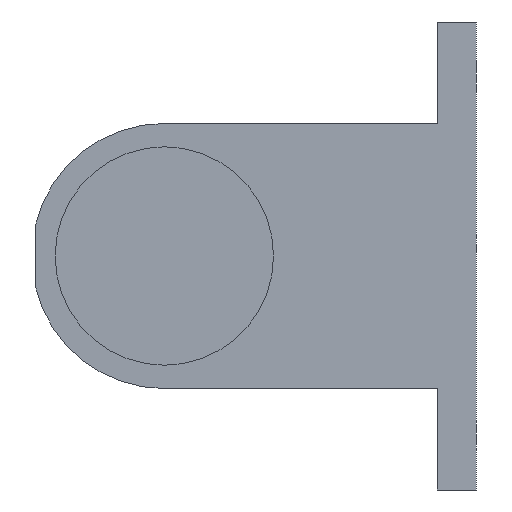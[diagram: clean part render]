
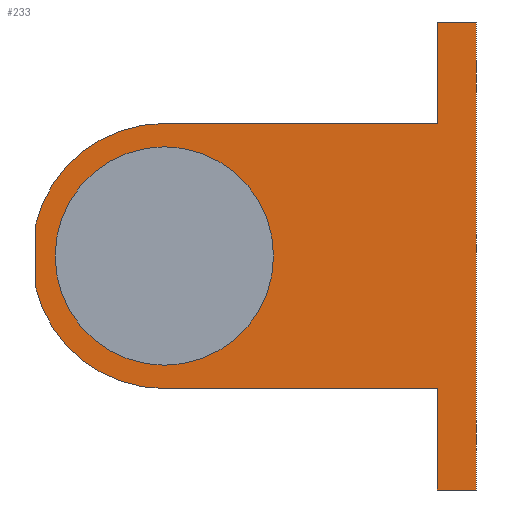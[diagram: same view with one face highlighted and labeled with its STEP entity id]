
A CAD part, left-side view. The second image highlights one B-rep face of the part: STEP entity #233.
In plain terms, the highlighted planar face has unit normal (-1, 0, 0).
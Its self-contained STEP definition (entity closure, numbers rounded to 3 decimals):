
#3 = ORIENTED_EDGE ( 'NONE', *, *, #329, .T. ) ;
#5 = VERTEX_POINT ( 'NONE', #111 ) ;
#10 = AXIS2_PLACEMENT_3D ( 'NONE', #409, #82, #371 ) ;
#13 = EDGE_CURVE ( 'NONE', #440, #56, #101, .T. ) ;
#15 = CARTESIAN_POINT ( 'NONE',  ( -10., -35., 30. ) ) ;
#17 = CARTESIAN_POINT ( 'NONE',  ( -10., -40., 30. ) ) ;
#28 = CARTESIAN_POINT ( 'NONE',  ( -10., -35., -17. ) ) ;
#31 = VECTOR ( 'NONE', #454, 1000. ) ;
#34 = CARTESIAN_POINT ( 'NONE',  ( -10., -35., -30. ) ) ;
#35 = CARTESIAN_POINT ( 'NONE',  ( -10., -40., -30. ) ) ;
#43 = ORIENTED_EDGE ( 'NONE', *, *, #163, .T. ) ;
#52 = ORIENTED_EDGE ( 'NONE', *, *, #322, .F. ) ;
#54 = EDGE_CURVE ( 'NONE', #177, #5, #593, .T. ) ;
#56 = VERTEX_POINT ( 'NONE', #397 ) ;
#62 = DIRECTION ( 'NONE',  ( 0., 1., 0. ) ) ;
#77 = VECTOR ( 'NONE', #86, 1000. ) ;
#82 = DIRECTION ( 'NONE',  ( 1., 0., 0. ) ) ;
#84 = CARTESIAN_POINT ( 'NONE',  ( -10., -35., 30. ) ) ;
#86 = DIRECTION ( 'NONE',  ( 0., 0., -1. ) ) ;
#99 = CARTESIAN_POINT ( 'NONE',  ( -10., 0., 17. ) ) ;
#101 = LINE ( 'NONE', #439, #585 ) ;
#111 = CARTESIAN_POINT ( 'NONE',  ( -10., 0., 17. ) ) ;
#116 = DIRECTION ( 'NONE',  ( 0., 0., -1. ) ) ;
#120 = DIRECTION ( 'NONE',  ( 0., -1., 0. ) ) ;
#123 = DIRECTION ( 'NONE',  ( 0., 0., 1. ) ) ;
#126 = VECTOR ( 'NONE', #196, 1000. ) ;
#127 = CARTESIAN_POINT ( 'NONE',  ( -10., 0., 0. ) ) ;
#142 = VERTEX_POINT ( 'NONE', #416 ) ;
#144 = VECTOR ( 'NONE', #629, 1000. ) ;
#163 = EDGE_CURVE ( 'NONE', #483, #281, #358, .T. ) ;
#164 = CARTESIAN_POINT ( 'NONE',  ( -10., 0., -17. ) ) ;
#167 = VECTOR ( 'NONE', #120, 1000. ) ;
#176 = CARTESIAN_POINT ( 'NONE',  ( -10., 0., 0. ) ) ;
#177 = VERTEX_POINT ( 'NONE', #470 ) ;
#183 = AXIS2_PLACEMENT_3D ( 'NONE', #219, #506, #116 ) ;
#186 = EDGE_CURVE ( 'NONE', #541, #607, #609, .T. ) ;
#193 = VECTOR ( 'NONE', #212, 1000. ) ;
#194 = ORIENTED_EDGE ( 'NONE', *, *, #223, .F. ) ;
#195 = ORIENTED_EDGE ( 'NONE', *, *, #580, .F. ) ;
#196 = DIRECTION ( 'NONE',  ( 0., 0., -1. ) ) ;
#201 = EDGE_CURVE ( 'NONE', #541, #56, #576, .T. ) ;
#203 = VERTEX_POINT ( 'NONE', #35 ) ;
#208 = CARTESIAN_POINT ( 'NONE',  ( -10., 16.5, 4.093 ) ) ;
#212 = DIRECTION ( 'NONE',  ( 0., 1., 0. ) ) ;
#219 = CARTESIAN_POINT ( 'NONE',  ( -10., 0., 0. ) ) ;
#220 = PLANE ( 'NONE',  #496 ) ;
#222 = CARTESIAN_POINT ( 'NONE',  ( -10., -35., 30. ) ) ;
#223 = EDGE_CURVE ( 'NONE', #573, #142, #599, .T. ) ;
#225 = CARTESIAN_POINT ( 'NONE',  ( -10., -35., 30. ) ) ;
#228 = EDGE_LOOP ( 'NONE', ( #195, #394, #236, #387, #308, #446, #552, #43, #3, #332 ) ) ;
#231 = CARTESIAN_POINT ( 'NONE',  ( -10., -40., 17. ) ) ;
#233 = ADVANCED_FACE ( 'NONE', ( #562, #317 ), #220, .F. ) ;
#234 = EDGE_LOOP ( 'NONE', ( #52, #194 ) ) ;
#236 = ORIENTED_EDGE ( 'NONE', *, *, #201, .F. ) ;
#270 = DIRECTION ( 'NONE',  ( -1., 0., 0. ) ) ;
#273 = VECTOR ( 'NONE', #62, 1000. ) ;
#281 = VERTEX_POINT ( 'NONE', #84 ) ;
#289 = LINE ( 'NONE', #15, #126 ) ;
#295 = CIRCLE ( 'NONE', #380, 14. ) ;
#308 = ORIENTED_EDGE ( 'NONE', *, *, #466, .T. ) ;
#317 = FACE_OUTER_BOUND ( 'NONE', #228, .T. ) ;
#320 = DIRECTION ( 'NONE',  ( 1., 0., 0. ) ) ;
#322 = EDGE_CURVE ( 'NONE', #142, #573, #295, .T. ) ;
#329 = EDGE_CURVE ( 'NONE', #281, #177, #625, .T. ) ;
#332 = ORIENTED_EDGE ( 'NONE', *, *, #54, .T. ) ;
#348 = CIRCLE ( 'NONE', #183, 17. ) ;
#357 = EDGE_CURVE ( 'NONE', #203, #483, #485, .T. ) ;
#358 = LINE ( 'NONE', #222, #193 ) ;
#361 = CARTESIAN_POINT ( 'NONE',  ( -10., 0., -14. ) ) ;
#371 = DIRECTION ( 'NONE',  ( 0., 0., -1. ) ) ;
#380 = AXIS2_PLACEMENT_3D ( 'NONE', #176, #270, #472 ) ;
#387 = ORIENTED_EDGE ( 'NONE', *, *, #186, .T. ) ;
#394 = ORIENTED_EDGE ( 'NONE', *, *, #13, .T. ) ;
#397 = CARTESIAN_POINT ( 'NONE',  ( -10., 16.5, -4.093 ) ) ;
#400 = DIRECTION ( 'NONE',  ( 0., 0., -1. ) ) ;
#404 = LINE ( 'NONE', #34, #31 ) ;
#409 = CARTESIAN_POINT ( 'NONE',  ( -10., 0., 0. ) ) ;
#410 = AXIS2_PLACEMENT_3D ( 'NONE', #459, #565, #123 ) ;
#416 = CARTESIAN_POINT ( 'NONE',  ( -10., 0., 14. ) ) ;
#439 = CARTESIAN_POINT ( 'NONE',  ( -10., 16.5, 0. ) ) ;
#440 = VERTEX_POINT ( 'NONE', #208 ) ;
#446 = ORIENTED_EDGE ( 'NONE', *, *, #539, .T. ) ;
#454 = DIRECTION ( 'NONE',  ( 0., -1., 0. ) ) ;
#459 = CARTESIAN_POINT ( 'NONE',  ( -10., 0., 0. ) ) ;
#466 = EDGE_CURVE ( 'NONE', #607, #578, #289, .T. ) ;
#470 = CARTESIAN_POINT ( 'NONE',  ( -10., -35., 17. ) ) ;
#472 = DIRECTION ( 'NONE',  ( 0., 0., 1. ) ) ;
#483 = VERTEX_POINT ( 'NONE', #17 ) ;
#485 = LINE ( 'NONE', #231, #144 ) ;
#496 = AXIS2_PLACEMENT_3D ( 'NONE', #127, #320, #520 ) ;
#506 = DIRECTION ( 'NONE',  ( 1., 0., 0. ) ) ;
#513 = CARTESIAN_POINT ( 'NONE',  ( -10., 0., -17. ) ) ;
#519 = CARTESIAN_POINT ( 'NONE',  ( -10., -35., -30. ) ) ;
#520 = DIRECTION ( 'NONE',  ( 0., 0., -1. ) ) ;
#539 = EDGE_CURVE ( 'NONE', #578, #203, #404, .T. ) ;
#541 = VERTEX_POINT ( 'NONE', #164 ) ;
#552 = ORIENTED_EDGE ( 'NONE', *, *, #357, .T. ) ;
#562 = FACE_BOUND ( 'NONE', #234, .T. ) ;
#565 = DIRECTION ( 'NONE',  ( -1., 0., 0. ) ) ;
#573 = VERTEX_POINT ( 'NONE', #361 ) ;
#576 = CIRCLE ( 'NONE', #10, 17. ) ;
#578 = VERTEX_POINT ( 'NONE', #519 ) ;
#580 = EDGE_CURVE ( 'NONE', #440, #5, #348, .T. ) ;
#585 = VECTOR ( 'NONE', #400, 1000. ) ;
#593 = LINE ( 'NONE', #99, #273 ) ;
#599 = CIRCLE ( 'NONE', #410, 14. ) ;
#607 = VERTEX_POINT ( 'NONE', #28 ) ;
#609 = LINE ( 'NONE', #513, #167 ) ;
#625 = LINE ( 'NONE', #225, #77 ) ;
#629 = DIRECTION ( 'NONE',  ( 0., 0., 1. ) ) ;
